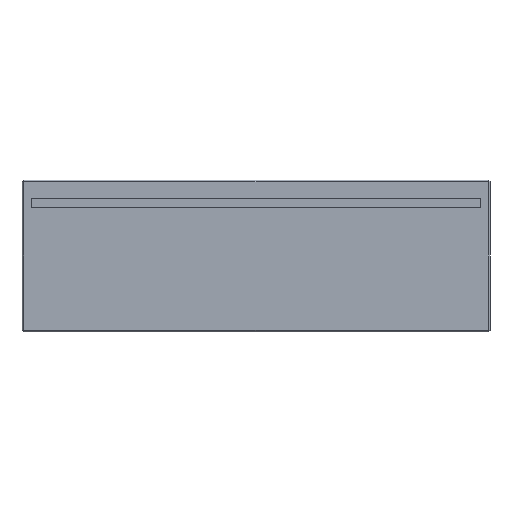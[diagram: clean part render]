
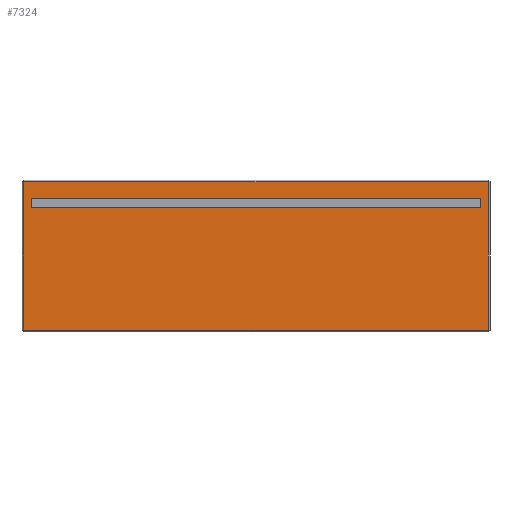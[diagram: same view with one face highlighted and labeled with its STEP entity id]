
A CAD part, front view. The second image highlights one B-rep face of the part: STEP entity #7324.
In plain terms, the highlighted planar face has unit normal (0, -1, 0).
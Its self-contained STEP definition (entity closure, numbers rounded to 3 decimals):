
#44 = PLANE('',#45);
#45 = AXIS2_PLACEMENT_3D('',#46,#47,#48);
#46 = CARTESIAN_POINT('',(-76.7,-14.4,0.));
#47 = DIRECTION('',(-0.707,-0.707,0.)
  );
#48 = DIRECTION('',(0.,0.,-1.));
#367 = VERTEX_POINT('',#368);
#368 = CARTESIAN_POINT('',(-76.4,-14.7,49.4));
#394 = EDGE_CURVE('',#395,#367,#397,.T.);
#395 = VERTEX_POINT('',#396);
#396 = CARTESIAN_POINT('',(-76.4,-14.7,0.6));
#397 = SURFACE_CURVE('',#398,(#402,#409),.PCURVE_S1.);
#398 = LINE('',#399,#400);
#399 = CARTESIAN_POINT('',(-76.4,-14.7,0.));
#400 = VECTOR('',#401,1.);
#401 = DIRECTION('',(0.,0.,1.));
#402 = PCURVE('',#44,#403);
#403 = DEFINITIONAL_REPRESENTATION('',(#404),#408);
#404 = LINE('',#405,#406);
#405 = CARTESIAN_POINT('',(-0.,0.424));
#406 = VECTOR('',#407,1.);
#407 = DIRECTION('',(-1.,0.));
#408 = ( GEOMETRIC_REPRESENTATION_CONTEXT(2) 
PARAMETRIC_REPRESENTATION_CONTEXT() REPRESENTATION_CONTEXT('2D SPACE',''
  ) );
#409 = PCURVE('',#410,#415);
#410 = PLANE('',#411);
#411 = AXIS2_PLACEMENT_3D('',#412,#413,#414);
#412 = CARTESIAN_POINT('',(-77.,-14.7,0.));
#413 = DIRECTION('',(-0.,1.,0.));
#414 = DIRECTION('',(0.,0.,1.));
#415 = DEFINITIONAL_REPRESENTATION('',(#416),#420);
#416 = LINE('',#417,#418);
#417 = CARTESIAN_POINT('',(0.,0.6));
#418 = VECTOR('',#419,1.);
#419 = DIRECTION('',(1.,0.));
#420 = ( GEOMETRIC_REPRESENTATION_CONTEXT(2) 
PARAMETRIC_REPRESENTATION_CONTEXT() REPRESENTATION_CONTEXT('2D SPACE',''
  ) );
#7281 = PLANE('',#7282);
#7282 = AXIS2_PLACEMENT_3D('',#7283,#7284,#7285);
#7283 = CARTESIAN_POINT('',(-77.,-14.4,0.3));
#7284 = DIRECTION('',(0.,-0.707,-0.707));
#7285 = DIRECTION('',(-1.,-0.,-0.));
#7312 = PLANE('',#7313);
#7313 = AXIS2_PLACEMENT_3D('',#7314,#7315,#7316);
#7314 = CARTESIAN_POINT('',(-77.,-14.4,49.7));
#7315 = DIRECTION('',(0.,0.707,-0.707));
#7316 = DIRECTION('',(-1.,0.,-0.));
#7324 = ADVANCED_FACE('',(#7325,#7400),#410,.F.);
#7325 = FACE_BOUND('',#7326,.F.);
#7326 = EDGE_LOOP('',(#7327,#7328,#7351,#7379));
#7327 = ORIENTED_EDGE('',*,*,#394,.T.);
#7328 = ORIENTED_EDGE('',*,*,#7329,.T.);
#7329 = EDGE_CURVE('',#367,#7330,#7332,.T.);
#7330 = VERTEX_POINT('',#7331);
#7331 = CARTESIAN_POINT('',(76.4,-14.7,49.4));
#7332 = SURFACE_CURVE('',#7333,(#7337,#7344),.PCURVE_S1.);
#7333 = LINE('',#7334,#7335);
#7334 = CARTESIAN_POINT('',(-77.,-14.7,49.4));
#7335 = VECTOR('',#7336,1.);
#7336 = DIRECTION('',(1.,0.,-0.));
#7337 = PCURVE('',#410,#7338);
#7338 = DEFINITIONAL_REPRESENTATION('',(#7339),#7343);
#7339 = LINE('',#7340,#7341);
#7340 = CARTESIAN_POINT('',(49.4,0.));
#7341 = VECTOR('',#7342,1.);
#7342 = DIRECTION('',(0.,1.));
#7343 = ( GEOMETRIC_REPRESENTATION_CONTEXT(2) 
PARAMETRIC_REPRESENTATION_CONTEXT() REPRESENTATION_CONTEXT('2D SPACE',''
  ) );
#7344 = PCURVE('',#7312,#7345);
#7345 = DEFINITIONAL_REPRESENTATION('',(#7346),#7350);
#7346 = LINE('',#7347,#7348);
#7347 = CARTESIAN_POINT('',(-0.,-0.424));
#7348 = VECTOR('',#7349,1.);
#7349 = DIRECTION('',(-1.,0.));
#7350 = ( GEOMETRIC_REPRESENTATION_CONTEXT(2) 
PARAMETRIC_REPRESENTATION_CONTEXT() REPRESENTATION_CONTEXT('2D SPACE',''
  ) );
#7351 = ORIENTED_EDGE('',*,*,#7352,.F.);
#7352 = EDGE_CURVE('',#7353,#7330,#7355,.T.);
#7353 = VERTEX_POINT('',#7354);
#7354 = CARTESIAN_POINT('',(76.4,-14.7,0.6));
#7355 = SURFACE_CURVE('',#7356,(#7360,#7367),.PCURVE_S1.);
#7356 = LINE('',#7357,#7358);
#7357 = CARTESIAN_POINT('',(76.4,-14.7,0.));
#7358 = VECTOR('',#7359,1.);
#7359 = DIRECTION('',(0.,0.,1.));
#7360 = PCURVE('',#410,#7361);
#7361 = DEFINITIONAL_REPRESENTATION('',(#7362),#7366);
#7362 = LINE('',#7363,#7364);
#7363 = CARTESIAN_POINT('',(0.,153.4));
#7364 = VECTOR('',#7365,1.);
#7365 = DIRECTION('',(1.,0.));
#7366 = ( GEOMETRIC_REPRESENTATION_CONTEXT(2) 
PARAMETRIC_REPRESENTATION_CONTEXT() REPRESENTATION_CONTEXT('2D SPACE',''
  ) );
#7367 = PCURVE('',#7368,#7373);
#7368 = PLANE('',#7369);
#7369 = AXIS2_PLACEMENT_3D('',#7370,#7371,#7372);
#7370 = CARTESIAN_POINT('',(76.7,-14.4,0.));
#7371 = DIRECTION('',(-0.707,0.707,0.
    ));
#7372 = DIRECTION('',(0.,0.,-1.));
#7373 = DEFINITIONAL_REPRESENTATION('',(#7374),#7378);
#7374 = LINE('',#7375,#7376);
#7375 = CARTESIAN_POINT('',(-0.,0.424));
#7376 = VECTOR('',#7377,1.);
#7377 = DIRECTION('',(-1.,0.));
#7378 = ( GEOMETRIC_REPRESENTATION_CONTEXT(2) 
PARAMETRIC_REPRESENTATION_CONTEXT() REPRESENTATION_CONTEXT('2D SPACE',''
  ) );
#7379 = ORIENTED_EDGE('',*,*,#7380,.F.);
#7380 = EDGE_CURVE('',#395,#7353,#7381,.T.);
#7381 = SURFACE_CURVE('',#7382,(#7386,#7393),.PCURVE_S1.);
#7382 = LINE('',#7383,#7384);
#7383 = CARTESIAN_POINT('',(-77.,-14.7,0.6));
#7384 = VECTOR('',#7385,1.);
#7385 = DIRECTION('',(1.,0.,-0.));
#7386 = PCURVE('',#410,#7387);
#7387 = DEFINITIONAL_REPRESENTATION('',(#7388),#7392);
#7388 = LINE('',#7389,#7390);
#7389 = CARTESIAN_POINT('',(0.6,0.));
#7390 = VECTOR('',#7391,1.);
#7391 = DIRECTION('',(0.,1.));
#7392 = ( GEOMETRIC_REPRESENTATION_CONTEXT(2) 
PARAMETRIC_REPRESENTATION_CONTEXT() REPRESENTATION_CONTEXT('2D SPACE',''
  ) );
#7393 = PCURVE('',#7281,#7394);
#7394 = DEFINITIONAL_REPRESENTATION('',(#7395),#7399);
#7395 = LINE('',#7396,#7397);
#7396 = CARTESIAN_POINT('',(-0.,-0.424));
#7397 = VECTOR('',#7398,1.);
#7398 = DIRECTION('',(-1.,0.));
#7399 = ( GEOMETRIC_REPRESENTATION_CONTEXT(2) 
PARAMETRIC_REPRESENTATION_CONTEXT() REPRESENTATION_CONTEXT('2D SPACE',''
  ) );
#7400 = FACE_BOUND('',#7401,.F.);
#7401 = EDGE_LOOP('',(#7402,#7430,#7456,#7482));
#7402 = ORIENTED_EDGE('',*,*,#7403,.F.);
#7403 = EDGE_CURVE('',#7404,#7406,#7408,.T.);
#7404 = VERTEX_POINT('',#7405);
#7405 = CARTESIAN_POINT('',(-74.,-14.7,44.));
#7406 = VERTEX_POINT('',#7407);
#7407 = CARTESIAN_POINT('',(74.,-14.7,44.));
#7408 = SURFACE_CURVE('',#7409,(#7413,#7419),.PCURVE_S1.);
#7409 = LINE('',#7410,#7411);
#7410 = CARTESIAN_POINT('',(-75.5,-14.7,44.));
#7411 = VECTOR('',#7412,1.);
#7412 = DIRECTION('',(1.,0.,-0.));
#7413 = PCURVE('',#410,#7414);
#7414 = DEFINITIONAL_REPRESENTATION('',(#7415),#7418);
#7415 = B_SPLINE_CURVE_WITH_KNOTS('',1,(#7416,#7417),.UNSPECIFIED.,.F.,
  .F.,(2,2),(1.5,149.5),.PIECEWISE_BEZIER_KNOTS.);
#7416 = CARTESIAN_POINT('',(44.,3.));
#7417 = CARTESIAN_POINT('',(44.,151.));
#7418 = ( GEOMETRIC_REPRESENTATION_CONTEXT(2) 
PARAMETRIC_REPRESENTATION_CONTEXT() REPRESENTATION_CONTEXT('2D SPACE',''
  ) );
#7419 = PCURVE('',#7420,#7425);
#7420 = PLANE('',#7421);
#7421 = AXIS2_PLACEMENT_3D('',#7422,#7423,#7424);
#7422 = CARTESIAN_POINT('',(-74.,-14.8,44.));
#7423 = DIRECTION('',(0.,0.,1.));
#7424 = DIRECTION('',(1.,0.,-0.));
#7425 = DEFINITIONAL_REPRESENTATION('',(#7426),#7429);
#7426 = B_SPLINE_CURVE_WITH_KNOTS('',1,(#7427,#7428),.UNSPECIFIED.,.F.,
  .F.,(2,2),(1.5,149.5),.PIECEWISE_BEZIER_KNOTS.);
#7427 = CARTESIAN_POINT('',(0.,0.1));
#7428 = CARTESIAN_POINT('',(148.,0.1));
#7429 = ( GEOMETRIC_REPRESENTATION_CONTEXT(2) 
PARAMETRIC_REPRESENTATION_CONTEXT() REPRESENTATION_CONTEXT('2D SPACE',''
  ) );
#7430 = ORIENTED_EDGE('',*,*,#7431,.T.);
#7431 = EDGE_CURVE('',#7404,#7432,#7434,.T.);
#7432 = VERTEX_POINT('',#7433);
#7433 = CARTESIAN_POINT('',(-74.,-14.7,41.));
#7434 = SURFACE_CURVE('',#7435,(#7439,#7445),.PCURVE_S1.);
#7435 = LINE('',#7436,#7437);
#7436 = CARTESIAN_POINT('',(-74.,-14.7,20.5));
#7437 = VECTOR('',#7438,1.);
#7438 = DIRECTION('',(-0.,0.,-1.));
#7439 = PCURVE('',#410,#7440);
#7440 = DEFINITIONAL_REPRESENTATION('',(#7441),#7444);
#7441 = B_SPLINE_CURVE_WITH_KNOTS('',1,(#7442,#7443),.UNSPECIFIED.,.F.,
  .F.,(2,2),(-23.5,-20.5),.PIECEWISE_BEZIER_KNOTS.);
#7442 = CARTESIAN_POINT('',(44.,3.));
#7443 = CARTESIAN_POINT('',(41.,3.));
#7444 = ( GEOMETRIC_REPRESENTATION_CONTEXT(2) 
PARAMETRIC_REPRESENTATION_CONTEXT() REPRESENTATION_CONTEXT('2D SPACE',''
  ) );
#7445 = PCURVE('',#7446,#7451);
#7446 = PLANE('',#7447);
#7447 = AXIS2_PLACEMENT_3D('',#7448,#7449,#7450);
#7448 = CARTESIAN_POINT('',(-74.,-14.8,41.));
#7449 = DIRECTION('',(1.,0.,-0.));
#7450 = DIRECTION('',(0.,0.,1.));
#7451 = DEFINITIONAL_REPRESENTATION('',(#7452),#7455);
#7452 = B_SPLINE_CURVE_WITH_KNOTS('',1,(#7453,#7454),.UNSPECIFIED.,.F.,
  .F.,(2,2),(-23.5,-20.5),.PIECEWISE_BEZIER_KNOTS.);
#7453 = CARTESIAN_POINT('',(3.,-0.1));
#7454 = CARTESIAN_POINT('',(0.,-0.1));
#7455 = ( GEOMETRIC_REPRESENTATION_CONTEXT(2) 
PARAMETRIC_REPRESENTATION_CONTEXT() REPRESENTATION_CONTEXT('2D SPACE',''
  ) );
#7456 = ORIENTED_EDGE('',*,*,#7457,.T.);
#7457 = EDGE_CURVE('',#7432,#7458,#7460,.T.);
#7458 = VERTEX_POINT('',#7459);
#7459 = CARTESIAN_POINT('',(74.,-14.7,41.));
#7460 = SURFACE_CURVE('',#7461,(#7465,#7471),.PCURVE_S1.);
#7461 = LINE('',#7462,#7463);
#7462 = CARTESIAN_POINT('',(-75.5,-14.7,41.));
#7463 = VECTOR('',#7464,1.);
#7464 = DIRECTION('',(1.,0.,-0.));
#7465 = PCURVE('',#410,#7466);
#7466 = DEFINITIONAL_REPRESENTATION('',(#7467),#7470);
#7467 = B_SPLINE_CURVE_WITH_KNOTS('',1,(#7468,#7469),.UNSPECIFIED.,.F.,
  .F.,(2,2),(1.5,149.5),.PIECEWISE_BEZIER_KNOTS.);
#7468 = CARTESIAN_POINT('',(41.,3.));
#7469 = CARTESIAN_POINT('',(41.,151.));
#7470 = ( GEOMETRIC_REPRESENTATION_CONTEXT(2) 
PARAMETRIC_REPRESENTATION_CONTEXT() REPRESENTATION_CONTEXT('2D SPACE',''
  ) );
#7471 = PCURVE('',#7472,#7477);
#7472 = PLANE('',#7473);
#7473 = AXIS2_PLACEMENT_3D('',#7474,#7475,#7476);
#7474 = CARTESIAN_POINT('',(-74.,-14.8,41.));
#7475 = DIRECTION('',(0.,0.,1.));
#7476 = DIRECTION('',(1.,0.,-0.));
#7477 = DEFINITIONAL_REPRESENTATION('',(#7478),#7481);
#7478 = B_SPLINE_CURVE_WITH_KNOTS('',1,(#7479,#7480),.UNSPECIFIED.,.F.,
  .F.,(2,2),(1.5,149.5),.PIECEWISE_BEZIER_KNOTS.);
#7479 = CARTESIAN_POINT('',(0.,0.1));
#7480 = CARTESIAN_POINT('',(148.,0.1));
#7481 = ( GEOMETRIC_REPRESENTATION_CONTEXT(2) 
PARAMETRIC_REPRESENTATION_CONTEXT() REPRESENTATION_CONTEXT('2D SPACE',''
  ) );
#7482 = ORIENTED_EDGE('',*,*,#7483,.F.);
#7483 = EDGE_CURVE('',#7406,#7458,#7484,.T.);
#7484 = SURFACE_CURVE('',#7485,(#7489,#7495),.PCURVE_S1.);
#7485 = LINE('',#7486,#7487);
#7486 = CARTESIAN_POINT('',(74.,-14.7,20.5));
#7487 = VECTOR('',#7488,1.);
#7488 = DIRECTION('',(-0.,0.,-1.));
#7489 = PCURVE('',#410,#7490);
#7490 = DEFINITIONAL_REPRESENTATION('',(#7491),#7494);
#7491 = B_SPLINE_CURVE_WITH_KNOTS('',1,(#7492,#7493),.UNSPECIFIED.,.F.,
  .F.,(2,2),(-23.5,-20.5),.PIECEWISE_BEZIER_KNOTS.);
#7492 = CARTESIAN_POINT('',(44.,151.));
#7493 = CARTESIAN_POINT('',(41.,151.));
#7494 = ( GEOMETRIC_REPRESENTATION_CONTEXT(2) 
PARAMETRIC_REPRESENTATION_CONTEXT() REPRESENTATION_CONTEXT('2D SPACE',''
  ) );
#7495 = PCURVE('',#7496,#7501);
#7496 = PLANE('',#7497);
#7497 = AXIS2_PLACEMENT_3D('',#7498,#7499,#7500);
#7498 = CARTESIAN_POINT('',(74.,-14.8,41.));
#7499 = DIRECTION('',(1.,0.,-0.));
#7500 = DIRECTION('',(0.,0.,1.));
#7501 = DEFINITIONAL_REPRESENTATION('',(#7502),#7505);
#7502 = B_SPLINE_CURVE_WITH_KNOTS('',1,(#7503,#7504),.UNSPECIFIED.,.F.,
  .F.,(2,2),(-23.5,-20.5),.PIECEWISE_BEZIER_KNOTS.);
#7503 = CARTESIAN_POINT('',(3.,-0.1));
#7504 = CARTESIAN_POINT('',(0.,-0.1));
#7505 = ( GEOMETRIC_REPRESENTATION_CONTEXT(2) 
PARAMETRIC_REPRESENTATION_CONTEXT() REPRESENTATION_CONTEXT('2D SPACE',''
  ) );
